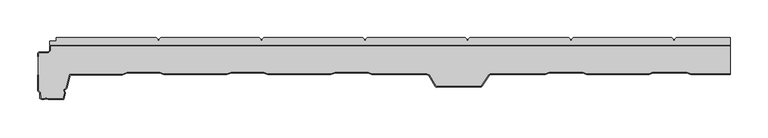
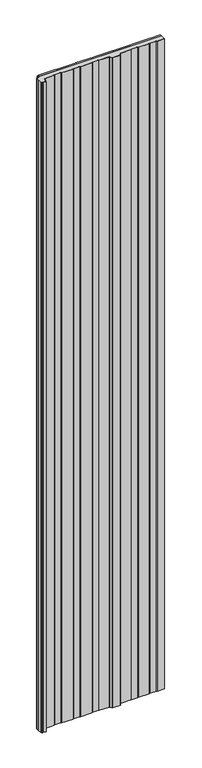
"""IFC4 building model written with IfcOpenShell, lengths in millimetres: plate geometry, Paneles-Sándwich-Madera_PAPUR-AC_Curtain-Panel : PAPUR AC 40/10."""

from ifc_helpers import new_model, si_unit, origin, origin_with_axes, place, context, project, spatial, polyline, outline, extrude, source, transform, mapped, element, save


def plate_2c15fbec(model_context):
    return source(origin(), model_context, "Body", "SweptSolid", [
        extrude(outline(polyline([(-304.8923076, 8.0070037), (-302.9037044, 10.0073737), (-172.8159298, 10.0073737), (-170.8198896, 8.0070037), (-170.8198896, 6.0196231), (-168.8151898, 6.0196231), (-168.8151898, 8.0070037), (-166.8234794, 10.0073737), (-36.0114048, 10.0073737), (-34.028354, 8.0070037), (-34.028354, 6.0196231), (-32.0236542, 6.0196231), (-32.0236542, 8.0070037), (-30.027614, 10.0073737), (99.3209865, 10.0073737), (101.3083671, 8.0070037), (101.3083671, 6.0196231), (103.3044073, 6.0196231), (103.3044073, 8.0070037), (105.3047773, 10.0073737), (236.7230247, 10.0073737), (238.7147351, 8.0070037), (238.7147351, 6.0196231), (240.7107753, 6.0196231), (240.7107753, 8.0070037), (242.7111453, 10.0073737), (372.9386962, 10.0073737), (374.9390662, 8.0070037), (374.9390662, 6.0196231), (376.9351064, 6.0196231), (376.9351064, 8.0070037), (378.9311466, 10.0073737), (450.0, 10.0073737), (450.0, 0.0), (-449.601171, 0.0), (-449.601171, 5.5984381), (-441.266524, 5.5984381), (-441.266524, 10.0073737), (-308.8887178, 10.0073737), (-306.8926776, 8.0070037), (-306.8926776, 6.0196231), (-304.8923076, 6.0196231), (-304.8923076, 8.0070037)])), origin_with_axes(), (0.0, 0.0, 1.0), 5000.0),
        extrude(outline(polyline([(-465.6618356, -10.4348305), (-464.1420739, -9.1055803), (-452.1008857, -8.9930054), (-449.9316533, -7.001295), (-449.9922705, -1.1690474), (-448.9531173, 0.0), (450.0, 0.0), (450.0, -0.8), (-448.5938644, -0.8), (-449.1891031, -1.4696435), (-449.1279914, -7.3494661), (-451.7861577, -9.7900979), (-463.8383716, -9.9027759), (-464.8585217, -10.795044), (-464.8185043, -15.1889566), (-465.6185375, -15.1889566), (-465.6618356, -10.4348305)])), origin_with_axes(), (0.0, 0.0, 1.0), 5000.0),
        extrude(outline(polyline([(260.2961713, -39.080732), (255.0700964, -36.8595419), (210.914743, -36.8595419), (205.4418692, -39.080732), (132.9522706, -39.080732), (131.4498282, -40.0159699), (122.1450768, -54.1874223), (121.0669553, -55.2871929), (61.5970809, -55.7721311), (59.7092859, -54.4602001), (51.1406014, -40.2974073), (48.4301433, -39.080732), (-24.2066687, -39.080732), (-28.6057508, -36.8595419), (-72.432039, -36.8595419), (-78.2426376, -39.080732), (-161.7689096, -39.080732), (-167.3283795, -36.8595419), (-209.6738743, -36.8595419), (-215.8568362, -39.080732), (-299.3138314, -39.080732), (-304.2931073, -36.8595419), (-347.2231259, -36.8595419), (-353.6788654, -39.5570106), (-422.9773976, -39.6955644), (-427.4977143, -57.4131272), (-428.6234636, -58.5994938), (-430.0999272, -59.3355607), (-430.4116732, -60.262139), (-429.4850948, -62.4227118), (-429.4850948, -63.6653659), (-431.6372836, -72.0045707), (-452.0433799, -72.0045707), (-454.8231149, -71.0779924), (-457.2997634, -72.0045707), (-460.7029903, -72.0045707), (-462.8635631, -70.4025428), (-462.9285102, -63.2756835), (-465.6476279, -60.6041937), (-465.6, -39.57), (-464.7999979, -39.57), (-464.8468678, -60.2694216), (-462.1315619, -62.9371664), (-462.0672248, -69.9970874), (-460.438754, -71.2045707), (-457.4445144, -71.2045707), (-454.8384953, -70.2295916), (-451.9135578, -71.2045707), (-432.2570317, -71.2045707), (-430.2850948, -63.5637976), (-430.2850948, -62.5870188), (-431.2673442, -60.2966335), (-430.7527365, -58.767105), (-429.1066634, -57.946482), (-428.2213945, -57.0135448), (-423.5992353, -38.896806), (-353.8400488, -38.7573313), (-347.3835418, -36.0595419), (-304.1227627, -36.0595419), (-299.1434867, -38.280732), (-215.9961744, -38.280732), (-209.8132126, -36.0595419), (-167.1744807, -36.0595419), (-161.6150108, -38.280732), (-78.390332, -38.280732), (-72.5797335, -36.0595419), (-28.4152363, -36.0595419), (-24.0161542, -38.280732), (48.6014618, -38.280732), (51.6958915, -39.6697651), (60.3056326, -53.9004185), (61.8448216, -54.9700843), (120.728235, -54.4899283), (121.5191698, -53.6831114), (130.8776723, -39.4297941), (132.7236193, -38.280732), (205.2857129, -38.280732), (210.7585866, -36.0595419), (255.2330509, -36.0595419), (260.4591258, -38.280732), (342.801635, -38.280732), (347.2274638, -36.0595419), (392.6117194, -36.0595419), (398.2231469, -38.280732), (450.0, -38.280732), (450.0, -39.080732), (398.0705727, -39.080732), (392.4591451, -36.8595419), (347.4169495, -36.8595419), (342.9911208, -39.080732), (260.2961713, -39.080732)])), origin_with_axes(), (0.0, 0.0, 1.0), 5000.0),
        extrude(outline(polyline([(398.2211683, -38.2761613), (392.6097408, -36.0549712), (347.2254852, -36.0549712), (342.7996564, -38.2761613), (260.4571472, -38.2761613), (255.2310723, -36.0549712), (210.756608, -36.0549712), (205.2837343, -38.2761613), (132.7216407, -38.2761613), (130.8756937, -39.4252234), (121.5171912, -53.6785406), (120.7262564, -54.4853576), (61.842843, -54.9655136), (60.303654, -53.8958478), (51.6939129, -39.6651944), (48.5994832, -38.2761613), (-24.0181328, -38.2761613), (-28.4172149, -36.0549712), (-72.5817121, -36.0549712), (-78.3923106, -38.2761613), (-161.6169894, -38.2761613), (-167.1764593, -36.0549712), (-209.8151912, -36.0549712), (-215.998153, -38.2761613), (-299.1454653, -38.2761613), (-304.1247413, -36.0549712), (-347.3855204, -36.0549712), (-353.8420274, -38.7527605), (-423.6012139, -38.8922353), (-428.2233731, -57.0089741), (-429.108642, -57.9419113), (-430.7547151, -58.7625342), (-431.2693228, -60.2920628), (-430.2870734, -62.5824481), (-430.2870734, -63.5592269), (-432.2590104, -71.2), (-451.9155364, -71.2), (-454.8404739, -70.2250208), (-457.446493, -71.2), (-460.4407326, -71.2), (-462.0692034, -69.9925166), (-462.1335405, -62.9325956), (-464.8488464, -60.2648508), (-464.8019766, -40.0), (-464.8432618, -10.795044), (-463.8231116, -9.9027759), (-451.7708977, -9.7900979), (-449.1127314, -7.3494661), (-449.1738431, -1.4696435), (-448.5786045, -0.8), (450.0, -0.8), (450.0, -38.2761613), (398.2211683, -38.2761613)])), origin_with_axes(), (0.0, 0.0, 1.0), 5000.0),
    ])


if __name__ == "__main__":
    model = new_model("IFC4")
    model_context = context("Model", 3, world=origin())
    ifc_project = project(units=[si_unit("LENGTHUNIT", "METRE", prefix="MILLI")], contexts=[model_context])
    site = spatial("IfcSite", under=ifc_project)
    building = spatial("IfcBuilding", under=site)
    placement = place(None, origin())
    plate_shape = plate_2c15fbec(model_context)
    element("IfcPlate", 1, ObjectType="Paneles-Sándwich-Madera_PAPUR-AC_Curtain-Panel : PAPUR AC 40/10", at=placement, inside=building, context=model_context, shape_type="MappedRepresentation", body=[
        mapped(plate_shape, transform((0.0, 0.0, 0.0), x_axis=(1.0, 0.0, 0.0), y_axis=(0.0, 1.0, 0.0), z_axis=(0.0, 0.0, 1.0))),
    ])
    save(model, "model.ifc")
